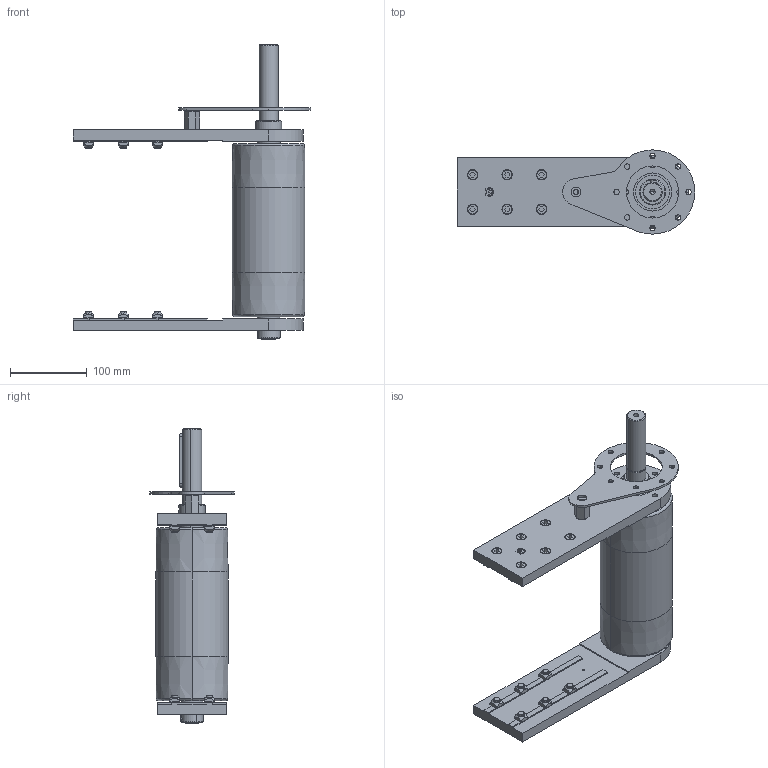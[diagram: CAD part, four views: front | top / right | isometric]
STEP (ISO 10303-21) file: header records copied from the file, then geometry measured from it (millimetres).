
FILE_DESCRIPTION (( 'STEP AP203' ), '1' );
FILE_NAME ('084.095.KD.49.200.step', '2014-02-18T11:36:43', ( '' ), ( '' ), 'SwSTEP 2.0', 'SolidWorks 2012', '' );
FILE_SCHEMA (( 'CONFIG_CONTROL_DESIGN' ));
Length unit declared in the file: millimetre
Products named in the file (15): 084.808.003_084.808.003; 084.812.003; 084.816.101_084.816.107<A macchina>; 084.302.000 DADI ALUSIC 13x13_084.302.004; 084.301.000 VITI ALUSIC_084.301.003; 084.802.034_084.802.034; 084.812.002; 084.808.004; 084.802.027; 084.808.002_084.808.002; 084.802.019_084.802.019; Circlip DIN 471 - 30 x 1.5_Circlip DIN 471 - 30 x 1.5; CHIAVETTE_A 8x7x70 UNI 6604-69; 084.810.003; 084.095.KD.49.200
Assembly tree (38 placements, depth 2):
  084.095.KD.49.200
    084.802.027
    084.808.004
    084.812.002
    084.802.034_084.802.034
    084.301.000 VITI ALUSIC_084.301.003  x12
    084.302.000 DADI ALUSIC 13x13_084.302.004  x12
    084.816.101_084.816.107<A macchina>
    084.812.003
    084.808.003_084.808.003
    084.808.002_084.808.002
    084.810.003  x2
    084.802.019_084.802.019
    CHIAVETTE_A 8x7x70 UNI 6604-69
    Circlip DIN 471 - 30 x 1.5_Circlip DIN 471 - 30 x 1.5  x2
Bounding box: 310 x 110 x 384.5 mm (x, y, z)
Volume: 1408447 mm3; surface area: 499302.5 mm2
Topology: 43 solids, 44 shells, 958 faces, 2371 edges, 1542 vertices
Faces by surface type: plane 408, cylinder 338, torus 92, cone 63, bspline 48, sphere 9
Entity records: 21404 total; most frequent: CARTESIAN_POINT 4312, DIRECTION 3219, ORIENTED_EDGE 3022, EDGE_CURVE 1511, AXIS2_PLACEMENT_3D 1270, VERTEX_POINT 987, EDGE_LOOP 714, CIRCLE 689
